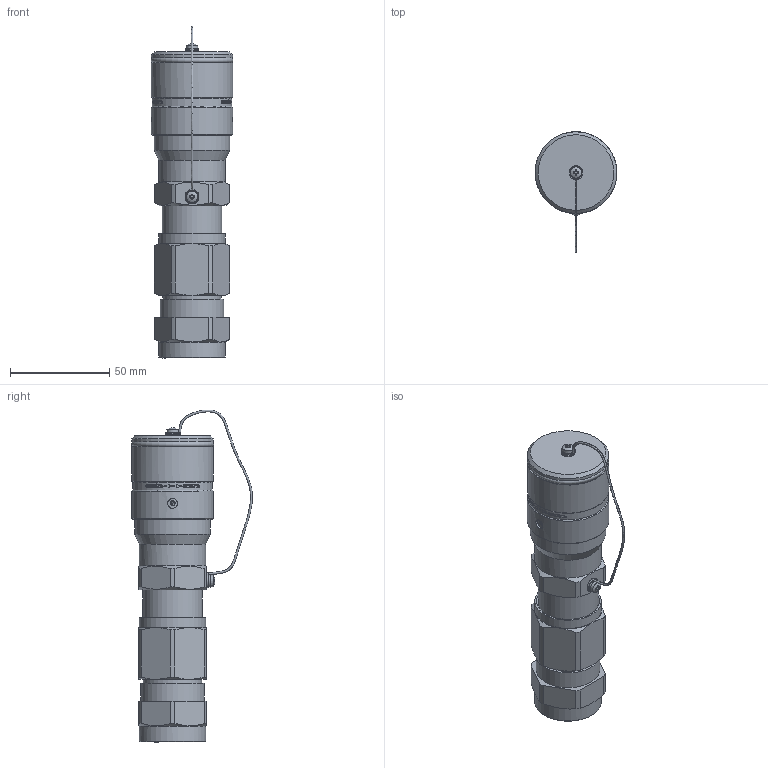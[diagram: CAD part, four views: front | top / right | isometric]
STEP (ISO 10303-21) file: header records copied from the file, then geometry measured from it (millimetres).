
FILE_DESCRIPTION (( 'STEP AP203' ), '1' );
FILE_NAME ('ﾂﾃﾌﾊ-24DC-7-ﾎ.STEP', '2021-11-16T08:19:45', ( '' ), ( '' ), 'SwSTEP 2.0', 'SolidWorks 2018', '' );
FILE_SCHEMA (( 'CONFIG_CONTROL_DESIGN' ));
Length unit declared in the file: millimetre
Products named in the file (1): ﾂﾃﾌﾊ-24DC-7-ﾎ
Bounding box: 41.19 x 60.68 x 166.87 mm (x, y, z)
Volume: 153717.1 mm3; surface area: 25614.3 mm2
Topology: 1 solids, 1 shells, 755 faces, 2042 edges, 1351 vertices
Faces by surface type: plane 349, bspline 245, cylinder 100, cone 56, torus 3, sphere 2
Full cylindrical faces by diameter (mm): 2.5 x2, 2.75 x2, 3 x2, 3.2 x2, 3.5 x2, 5 x2, 25 x1, 29.4 x1, 30 x1, 32 x1, 33.5 x3, 38 x1, 38.7 x1, 40 x1, 41 x3
Entity records: 28651 total; most frequent: CARTESIAN_POINT 11744, ORIENTED_EDGE 3916, DIRECTION 2730, EDGE_CURVE 1958, VERTEX_POINT 1320, AXIS2_PLACEMENT_3D 926, EDGE_LOOP 882, LINE 878
